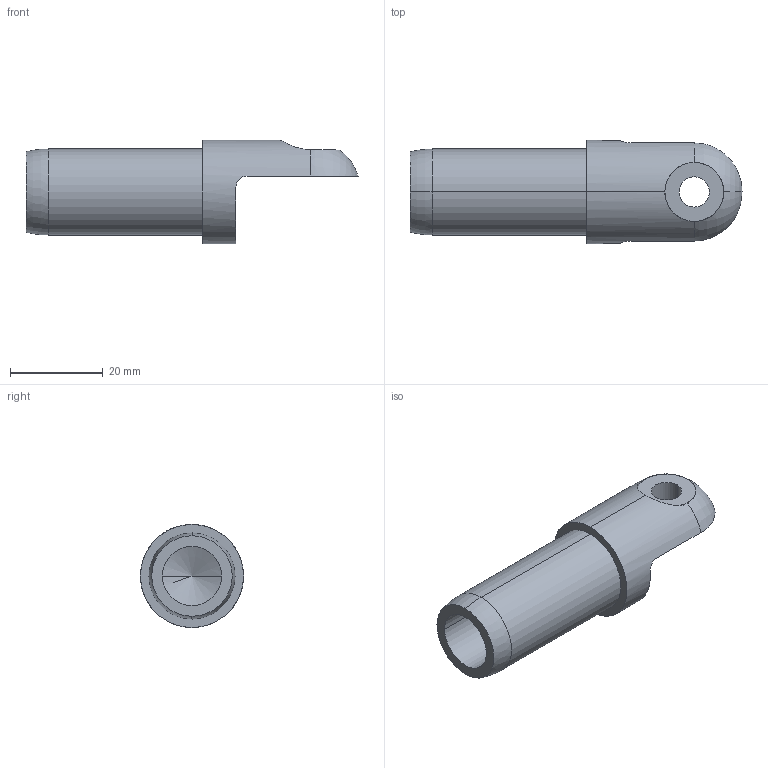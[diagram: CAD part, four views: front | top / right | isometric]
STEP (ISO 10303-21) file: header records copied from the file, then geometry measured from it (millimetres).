
FILE_DESCRIPTION (( 'STEP AP214' ), '1' );
FILE_NAME ('DRP-002-0529-00.STEP', '2013-12-20T17:35:12', ( 'ydmin' ), ( 'Microsoft' ), 'SwSTEP 2.0', 'SolidWorks 2013', '' );
FILE_SCHEMA (( 'AUTOMOTIVE_DESIGN' ));
Length unit declared in the file: inch
Products named in the file (1): DRP-002-0529-00
Bounding box: 71.54 x 22.23 x 22.23 mm (x, y, z)
Volume: 10223.1 mm3; surface area: 6193.4 mm2
Topology: 1 solids, 1 shells, 22 faces, 51 edges, 31 vertices
Faces by surface type: cylinder 11, plane 5, torus 4, cone 2
Entity records: 1097 total; most frequent: CARTESIAN_POINT 268, DIRECTION 112, ORIENTED_EDGE 98, EDGE_CURVE 49, AXIS2_PLACEMENT_3D 48, VERTEX_POINT 31, EDGE_LOOP 26, LENGTH_MEASURE_WITH_UNIT 25
